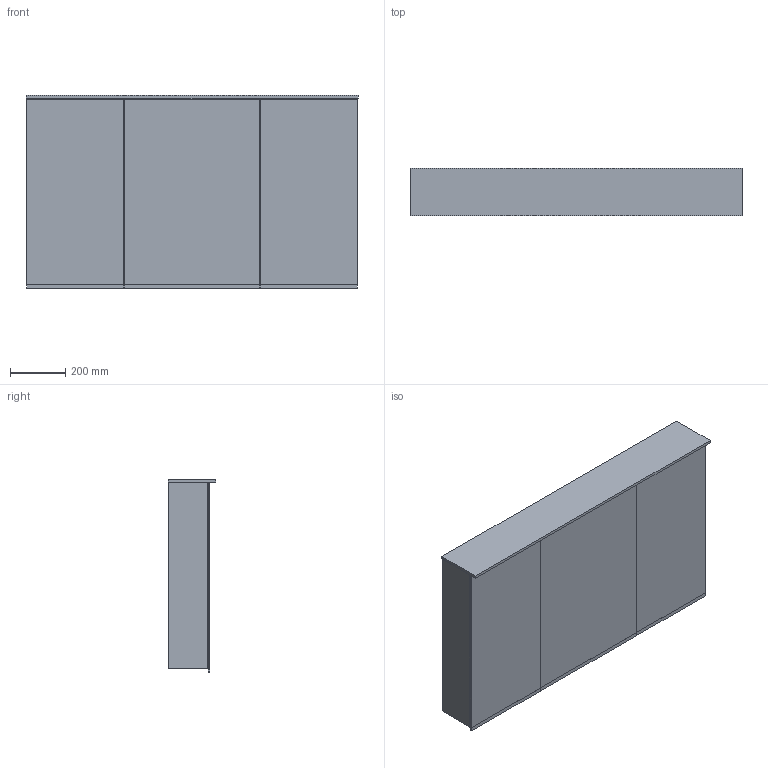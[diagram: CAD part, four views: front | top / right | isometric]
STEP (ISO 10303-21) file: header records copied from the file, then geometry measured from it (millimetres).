
FILE_DESCRIPTION(/* description */ (''),/* implementation_level */ '2;1');
FILE_NAME(/* name */ 'C:\Planerdaten\Export PLA\500.592.00.1\stp\500592.stp',/* time_stamp */ '2020-01-13T15:48:20+01:00',/* author */ ('JANAN'),/* organization */ (''),/* preprocessor_version */ 'ST-DEVELOPER v16.13',/* originating_system */ 'Autodesk Inventor 2018',/* authorisation */ '');
FILE_SCHEMA (('AUTOMOTIVE_DESIGN { 1 0 10303 214 3 1 1 }'));
Length unit declared in the file: millimetre
Products named in the file (1): SpglSchrk Ge+OptP B120 m/Bel 3-Tür
Bounding box: 1202 x 172 x 699 mm (x, y, z)
Volume: 25857828 mm3; surface area: 5001168.4 mm2
Topology: 4 solids, 4 shells, 75 faces, 198 edges, 132 vertices
Faces by surface type: plane 75
Entity records: 2398 total; most frequent: CARTESIAN_POINT 406, ORIENTED_EDGE 396, DIRECTION 350, LINE 198, VECTOR 198, EDGE_CURVE 198, VERTEX_POINT 132, EDGE_LOOP 80
